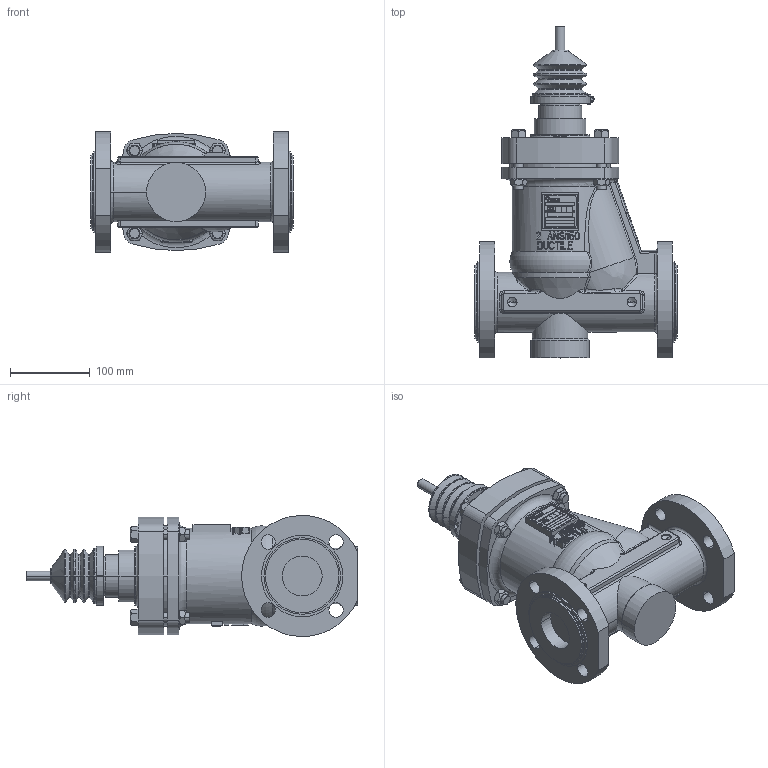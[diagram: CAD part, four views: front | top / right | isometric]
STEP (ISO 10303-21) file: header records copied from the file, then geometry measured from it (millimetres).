
FILE_DESCRIPTION((''),'2;1');
FILE_NAME('9560-00-5022_A_ASM','2014-04-04T',('SParmar1'),(''),'PRO/ENGINEER BY PARAMETRIC TECHNOLOGY CORPORATION, 2011040','PRO/ENGINEER BY PARAMETRIC TECHNOLOGY CORPORATION, 2011040','');
FILE_SCHEMA(('CONFIG_CONTROL_DESIGN'));
Products named in the file (6): 9567-14-2041; 9568-27-5105; 4188_11_1060; M12_X_65; M12_X_HEX_NUT; 9560-00-5022_A_ASM
Assembly tree (11 placements, depth 2):
  9560-00-5022_A_ASM
    9567-14-2041
    9568-27-5105
    4188_11_1060
    M12_X_65  x4
    M12_X_HEX_NUT  x4
Bounding box: 254 x 416.5 x 151.94 mm (x, y, z)
Volume: 4541275.4 mm3; surface area: 396847.4 mm2
Topology: 13 solids, 13 shells, 2770 faces, 7613 edges, 5001 vertices
Faces by surface type: plane 2356, cylinder 217, bspline 67, torus 57, cone 50, extrusion 17, sphere 6
Entity records: 87847 total; most frequent: CARTESIAN_POINT 19497, ORIENTED_EDGE 14842, DIRECTION 12900, EDGE_CURVE 7421, VECTOR 6374, LINE 6357, VERTEX_POINT 4885, AXIS2_PLACEMENT_3D 3263
